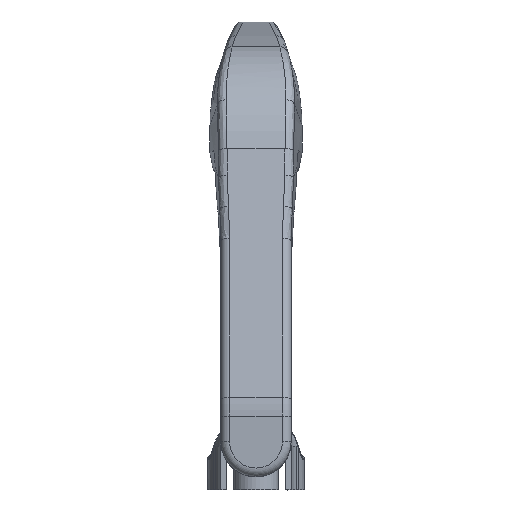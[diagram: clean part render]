
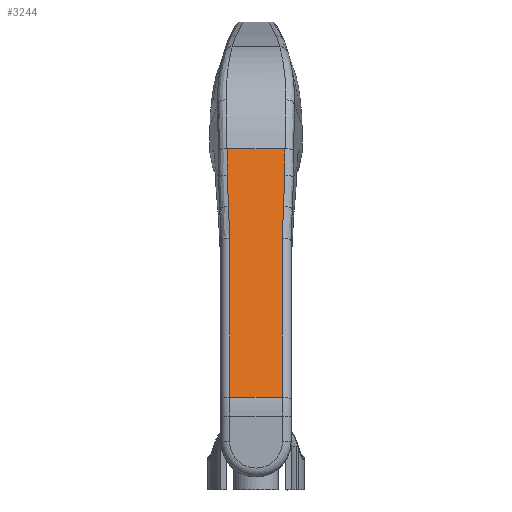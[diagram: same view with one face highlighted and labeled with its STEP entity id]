
A CAD part, left-side view. The second image highlights one B-rep face of the part: STEP entity #3244.
In plain terms, the highlighted planar face has unit normal (-0.977, 0, 0.214).
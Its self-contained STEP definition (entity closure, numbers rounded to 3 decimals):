
#61=LINE('',#5148,#193);
#62=LINE('',#5151,#194);
#63=LINE('',#5165,#195);
#64=LINE('',#5178,#196);
#193=VECTOR('',#3904,6.);
#194=VECTOR('',#3907,18.53);
#195=VECTOR('',#3910,6.61);
#196=VECTOR('',#3913,18.53);
#316=PLANE('',#3506);
#456=B_SPLINE_CURVE_WITH_KNOTS('',3,(#5153,#5154,#5155,#5156),
 .UNSPECIFIED.,.F.,.F.,(4,4),(0.,0.374),
 .UNSPECIFIED.);
#457=B_SPLINE_CURVE_WITH_KNOTS('',3,(#5158,#5159,#5160,#5161),
 .UNSPECIFIED.,.F.,.F.,(4,4),(0.,0.362),.UNSPECIFIED.);
#458=B_SPLINE_CURVE_WITH_KNOTS('',3,(#5169,#5170,#5171,#5172),
 .UNSPECIFIED.,.F.,.F.,(4,4),(0.,0.362),
 .UNSPECIFIED.);
#459=B_SPLINE_CURVE_WITH_KNOTS('',3,(#5174,#5175,#5176,#5177),
 .UNSPECIFIED.,.F.,.F.,(4,4),(-0.374,0.),.UNSPECIFIED.);
#658=FACE_OUTER_BOUND('',#882,.T.);
#882=EDGE_LOOP('',(#2218,#2219,#2220,#2221,#2222,#2223,#2224,#2225,#2226,
#2227));
#1099=ELLIPSE('',#3507,6007.888,1287.85);
#1100=ELLIPSE('',#3508,6007.888,1287.85);
#1326=VERTEX_POINT('',#5129);
#1331=VERTEX_POINT('',#5139);
#1334=VERTEX_POINT('',#5150);
#1335=VERTEX_POINT('',#5152);
#1336=VERTEX_POINT('',#5157);
#1337=VERTEX_POINT('',#5162);
#1338=VERTEX_POINT('',#5164);
#1339=VERTEX_POINT('',#5166);
#1340=VERTEX_POINT('',#5168);
#1341=VERTEX_POINT('',#5173);
#1663=EDGE_CURVE('',#1331,#1326,#61,.T.);
#1664=EDGE_CURVE('',#1334,#1331,#62,.T.);
#1665=EDGE_CURVE('',#1335,#1334,#456,.T.);
#1666=EDGE_CURVE('',#1336,#1335,#457,.T.);
#1667=EDGE_CURVE('',#1337,#1336,#1099,.T.);
#1668=EDGE_CURVE('',#1337,#1338,#63,.T.);
#1669=EDGE_CURVE('',#1339,#1338,#1100,.T.);
#1670=EDGE_CURVE('',#1340,#1339,#458,.T.);
#1671=EDGE_CURVE('',#1341,#1340,#459,.T.);
#1672=EDGE_CURVE('',#1326,#1341,#64,.T.);
#2218=ORIENTED_EDGE('',*,*,#1663,.F.);
#2219=ORIENTED_EDGE('',*,*,#1664,.F.);
#2220=ORIENTED_EDGE('',*,*,#1665,.F.);
#2221=ORIENTED_EDGE('',*,*,#1666,.F.);
#2222=ORIENTED_EDGE('',*,*,#1667,.F.);
#2223=ORIENTED_EDGE('',*,*,#1668,.T.);
#2224=ORIENTED_EDGE('',*,*,#1669,.F.);
#2225=ORIENTED_EDGE('',*,*,#1670,.F.);
#2226=ORIENTED_EDGE('',*,*,#1671,.F.);
#2227=ORIENTED_EDGE('',*,*,#1672,.F.);
#3244=ADVANCED_FACE('',(#658),#316,.T.);
#3506=AXIS2_PLACEMENT_3D('',#5149,#3905,#3906);
#3507=AXIS2_PLACEMENT_3D('',#5163,#3908,#3909);
#3508=AXIS2_PLACEMENT_3D('',#5167,#3911,#3912);
#3904=DIRECTION('',(0.,1.,0.));
#3905=DIRECTION('center_axis',(-0.977,0.,0.214));
#3906=DIRECTION('ref_axis',(0.214,0.,0.977));
#3907=DIRECTION('',(-0.214,0.,-0.977));
#3908=DIRECTION('center_axis',(0.977,0.,-0.214));
#3909=DIRECTION('ref_axis',(-0.214,0.,-0.977));
#3910=DIRECTION('',(0.,1.,0.));
#3911=DIRECTION('center_axis',(0.977,0.,-0.214));
#3912=DIRECTION('ref_axis',(-0.214,0.,-0.977));
#3913=DIRECTION('',(0.214,0.,0.977));
#5129=CARTESIAN_POINT('',(-56.518,3.,-42.941));
#5139=CARTESIAN_POINT('',(-56.518,-3.,-42.941));
#5148=CARTESIAN_POINT('',(-56.518,-2.625,-42.941));
#5149=CARTESIAN_POINT('Origin',(-56.75,0.,-44.));
#5150=CARTESIAN_POINT('',(-52.546,-3.,-24.842));
#5151=CARTESIAN_POINT('',(-54.98,-3.,-35.934));
#5152=CARTESIAN_POINT('',(-51.744,-3.134,-21.188));
#5153=CARTESIAN_POINT('Ctrl Pts',(-51.744,-3.134,-21.188));
#5154=CARTESIAN_POINT('Ctrl Pts',(-52.01,-3.045,-22.404));
#5155=CARTESIAN_POINT('Ctrl Pts',(-52.278,-3.,-23.623));
#5156=CARTESIAN_POINT('Ctrl Pts',(-52.546,-3.,-24.842));
#5157=CARTESIAN_POINT('',(-50.968,-3.279,-17.652));
#5158=CARTESIAN_POINT('Ctrl Pts',(-50.968,-3.279,-17.652));
#5159=CARTESIAN_POINT('Ctrl Pts',(-51.227,-3.269,-18.832));
#5160=CARTESIAN_POINT('Ctrl Pts',(-51.485,-3.22,-20.011));
#5161=CARTESIAN_POINT('Ctrl Pts',(-51.744,-3.134,-21.188));
#5162=CARTESIAN_POINT('',(-50.298,-3.305,-14.599));
#5163=CARTESIAN_POINT('Origin',(-0.977,1283.6,210.137));
#5164=CARTESIAN_POINT('',(-50.298,3.305,-14.599));
#5165=CARTESIAN_POINT('',(-50.298,0.,-14.599));
#5166=CARTESIAN_POINT('',(-50.968,3.279,-17.652));
#5167=CARTESIAN_POINT('Origin',(-0.977,-1283.6,210.137));
#5168=CARTESIAN_POINT('',(-51.744,3.134,-21.188));
#5169=CARTESIAN_POINT('Ctrl Pts',(-51.744,3.134,-21.188));
#5170=CARTESIAN_POINT('Ctrl Pts',(-51.485,3.22,-20.011));
#5171=CARTESIAN_POINT('Ctrl Pts',(-51.227,3.269,-18.832));
#5172=CARTESIAN_POINT('Ctrl Pts',(-50.968,3.279,-17.652));
#5173=CARTESIAN_POINT('',(-52.546,3.,-24.842));
#5174=CARTESIAN_POINT('Ctrl Pts',(-52.546,3.,-24.842));
#5175=CARTESIAN_POINT('Ctrl Pts',(-52.278,3.,-23.623));
#5176=CARTESIAN_POINT('Ctrl Pts',(-52.01,3.045,-22.404));
#5177=CARTESIAN_POINT('Ctrl Pts',(-51.744,3.134,-21.188));
#5178=CARTESIAN_POINT('',(-51.63,3.,-20.669));
